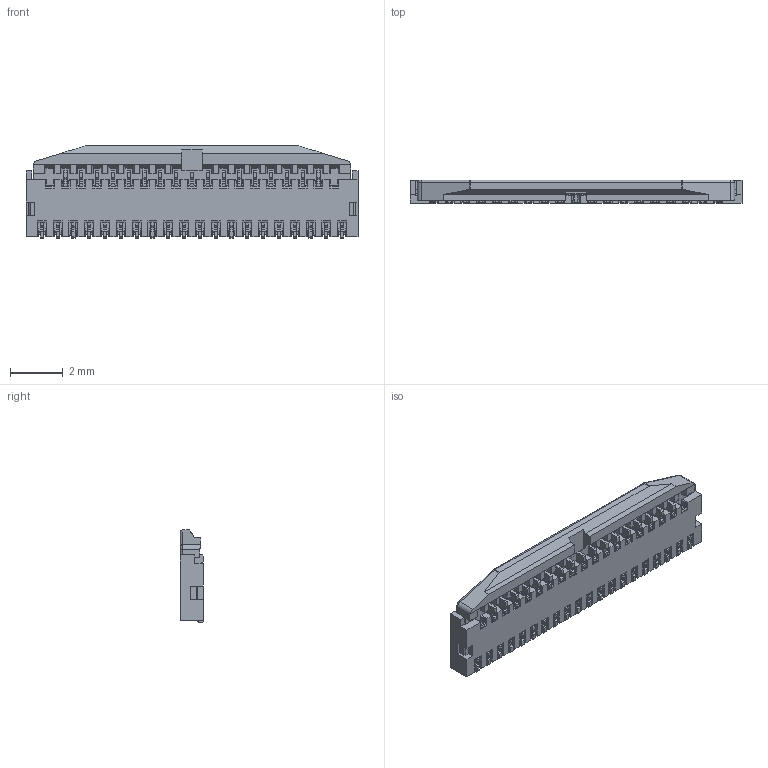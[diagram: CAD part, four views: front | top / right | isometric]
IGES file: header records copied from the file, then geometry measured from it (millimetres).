
Start section: SolidWorks IGES file using analytic representation for surfaces
Global section: file name: C:\3dworks\takei\MINIFLEX3-BFN 3Dƒ‚ƒfƒ‹_150220\20584-035ExC ASS'Y ACT CLOSE IGES R3 ALL.IGS; native system: SolidWorks 2012; preprocessor: SolidWorks 2012; author: ieng2-004; date: 150220.162932; units: millimetre
Bounding box: 12.6 x 0.9 x 3.5 mm (x, y, z)
Surface area: 170.1 mm2 (no closed solid volume)
Topology: 0 solids, 0 shells, 3265 faces, 20644 edges, 20640 vertices
Faces by surface type: bspline 2802, revolution 463
